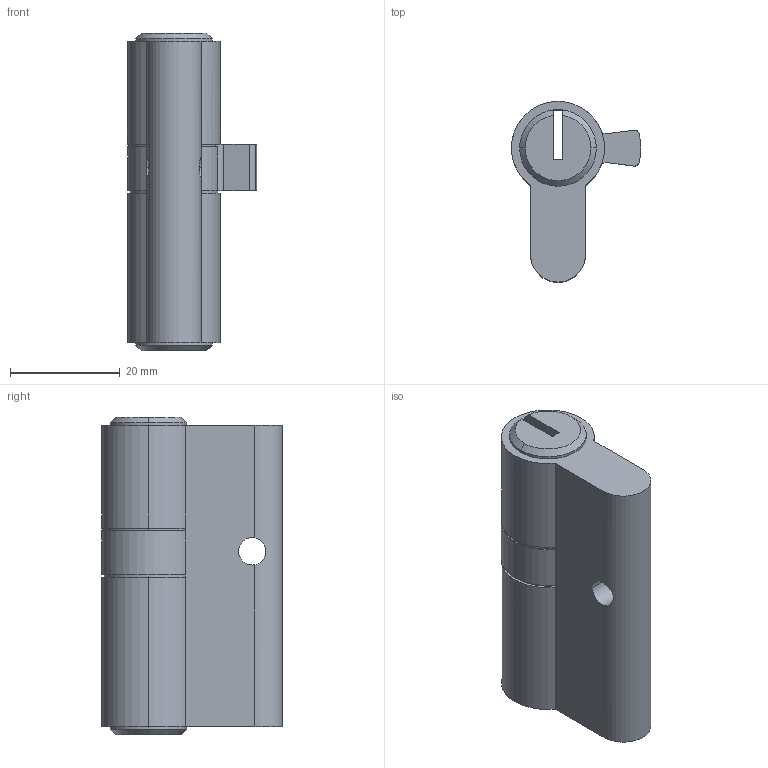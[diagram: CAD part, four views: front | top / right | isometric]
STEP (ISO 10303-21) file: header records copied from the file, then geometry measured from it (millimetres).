
FILE_DESCRIPTION (( 'STEP AP214' ), '1' );
FILE_NAME ('TPL-H-APC-014-L 09Oct2024.STEP', '2024-10-09T04:48:26', ( '' ), ( '' ), 'SwSTEP 2.0', 'SolidWorks 2023', '' );
FILE_SCHEMA (( 'AUTOMOTIVE_DESIGN' ));
Length unit declared in the file: millimetre
Products named in the file (1): TPL-H-APC-014-L 09Oct2024
Bounding box: 23.58 x 33 x 58 mm (x, y, z)
Volume: 20579.9 mm3; surface area: 7053.2 mm2
Topology: 1 solids, 1 shells, 51 faces, 141 edges, 88 vertices
Faces by surface type: cylinder 29, plane 16, cone 6
Entity records: 1740 total; most frequent: CARTESIAN_POINT 357, DIRECTION 307, ORIENTED_EDGE 282, EDGE_CURVE 141, AXIS2_PLACEMENT_3D 122, VERTEX_POINT 88, CIRCLE 70, LINE 63
